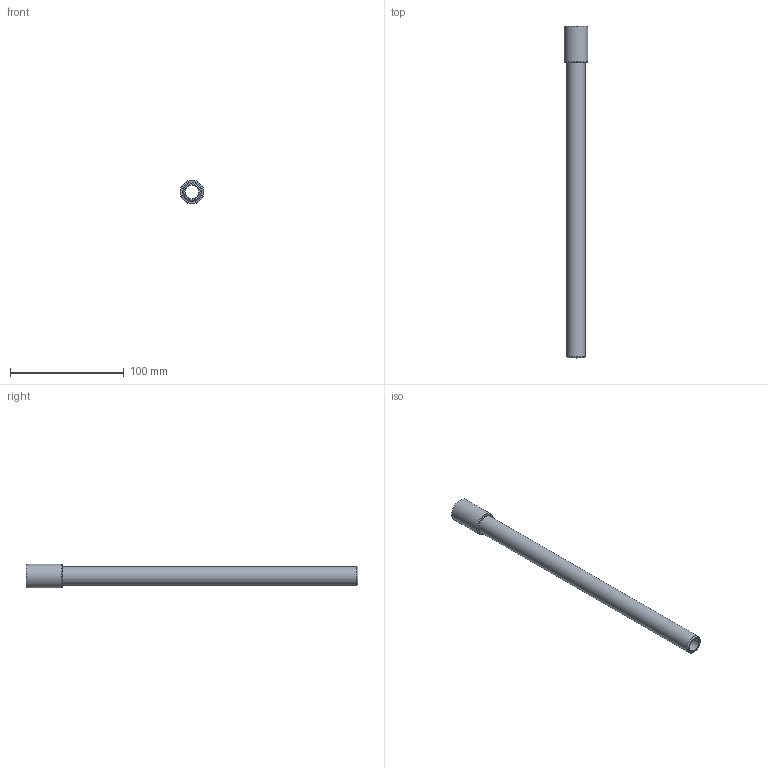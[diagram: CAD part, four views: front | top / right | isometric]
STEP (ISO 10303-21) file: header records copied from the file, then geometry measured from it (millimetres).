
FILE_DESCRIPTION(/* description */ (''),/* implementation_level */ '2;1');
FILE_NAME(/* name */ 'C:/Users/drich/Desktop/EP38X11-1_2 v1.step',/* time_stamp */ '2019-11-18T15:07:32-06:00',/* author */ (''),/* organization */ (''),/* preprocessor_version */ 'ST-DEVELOPER v18',/* originating_system */ 'Autodesk Translation Framework v8.12.0.6',/* authorisation */ '');
FILE_SCHEMA (('AUTOMOTIVE_DESIGN { 1 0 10303 214 3 1 1 }'));
Length unit declared in the file: inch
Products named in the file (2): EP38X11-1_2; EP38X4
Assembly tree (1 placements, depth 2):
  EP38X11-1_2
    EP38X4
Bounding box: 20.62 x 292.1 x 20.62 mm (x, y, z)
Volume: 32488.8 mm3; surface area: 27141.2 mm2
Topology: 1 solids, 1 shells, 23 faces, 55 edges, 37 vertices
Faces by surface type: plane 11, cone 7, cylinder 5
Full cylindrical faces by diameter (mm): 11.887 x1, 14.986 x1, 15.173 x1, 16.537 x1, 20.625 x1
Entity records: 740 total; most frequent: CARTESIAN_POINT 132, DIRECTION 124, ORIENTED_EDGE 110, EDGE_CURVE 55, AXIS2_PLACEMENT_3D 50, VERTEX_POINT 37, EDGE_LOOP 28, LINE 24
